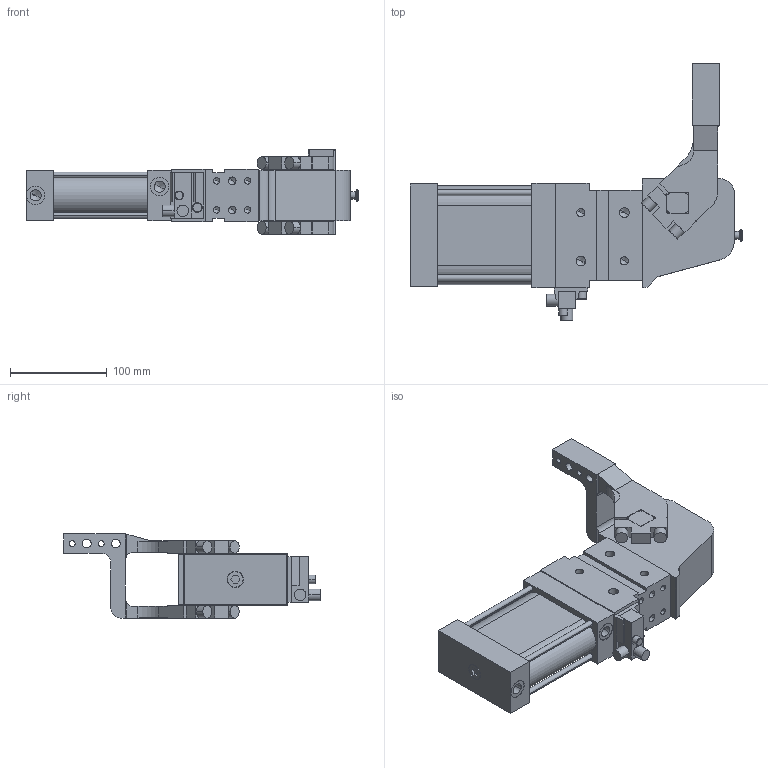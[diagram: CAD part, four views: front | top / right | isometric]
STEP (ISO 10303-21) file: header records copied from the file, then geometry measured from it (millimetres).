
FILE_DESCRIPTION (( 'STEP AP214' ), '1' );
FILE_NAME ('AKUHV63-L01W12.STEP', '2026-07-07T17:36:01', ( '' ), ( '' ), 'SwSTEP 2.0', 'SolidWorks 2019', '' );
FILE_SCHEMA (( 'AUTOMOTIVE_DESIGN' ));
Length unit declared in the file: millimetre
Products named in the file (3): 63-L01; AKUHV63-Z00W12; AKUHV63-L01W12
Assembly tree (2 placements, depth 2):
  AKUHV63-L01W12
    AKUHV63-Z00W12
    63-L01
Bounding box: 343 x 265.5 x 87 mm (x, y, z)
Volume: 1788211.9 mm3; surface area: 178208 mm2
Topology: 2 solids, 3 shells, 369 faces, 956 edges, 585 vertices
Faces by surface type: plane 167, cylinder 130, cone 60, torus 12
Entity records: 11143 total; most frequent: CARTESIAN_POINT 2040, DIRECTION 1931, ORIENTED_EDGE 1820, EDGE_CURVE 910, AXIS2_PLACEMENT_3D 674, VERTEX_POINT 585, VECTOR 583, LINE 583
